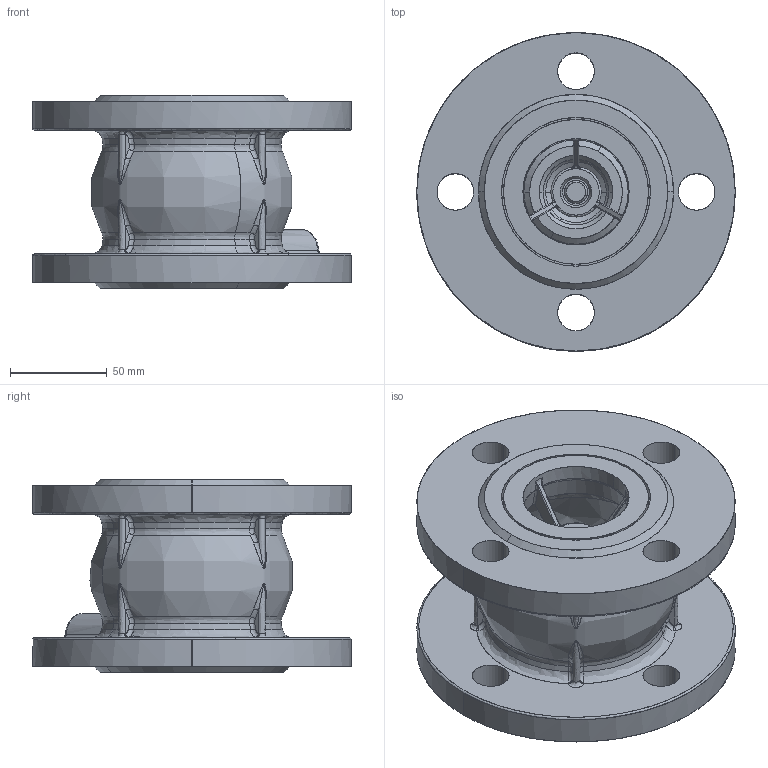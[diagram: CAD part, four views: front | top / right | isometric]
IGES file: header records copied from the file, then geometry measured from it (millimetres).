
Start section: SolidWorks IGES file using analytic representation for surfaces
Global section: file name: C:\Users\Administrator\Desktop\陔膘恅璃標 (2)\Assem17.IGS; native system: SolidWorks 2015; preprocessor: SolidWorks 2015; author: Administrator; date: 170331.214013; units: millimetre
Bounding box: 165 x 165 x 100 mm (x, y, z)
Surface area: 171273.9 mm2 (no closed solid volume)
Topology: 0 solids, 0 shells, 479 faces, 6200 edges, 6182 vertices
Faces by surface type: bspline 317, revolution 162
